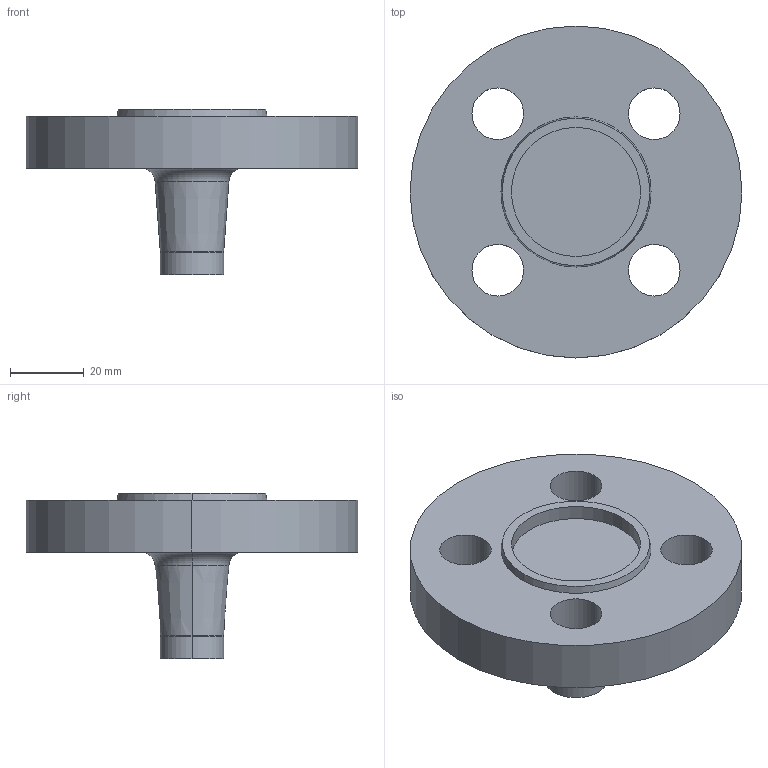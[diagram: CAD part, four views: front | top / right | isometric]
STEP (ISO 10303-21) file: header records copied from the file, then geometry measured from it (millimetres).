
FILE_DESCRIPTION (( 'STEP AP214' ), '1' );
FILE_NAME ('PN40 DN10 Type 21(ii) - Type F Face.STEP', '2018-12-29T05:04:43', ( '' ), ( '' ), 'SwSTEP 2.0', 'SolidWorks 2019', '' );
FILE_SCHEMA (( 'AUTOMOTIVE_DESIGN' ));
Length unit declared in the file: millimetre
Products named in the file (1): PN40 DN10 Type 21(ii) - Type F Face
Bounding box: 90 x 90 x 45 mm (x, y, z)
Volume: 87199.1 mm3; surface area: 20070.9 mm2
Topology: 1 solids, 1 shells, 27 faces, 60 edges, 38 vertices
Faces by surface type: cylinder 14, plane 5, torus 4, cone 4
Entity records: 818 total; most frequent: DIRECTION 158, CARTESIAN_POINT 126, ORIENTED_EDGE 120, AXIS2_PLACEMENT_3D 70, EDGE_CURVE 60, CIRCLE 42, EDGE_LOOP 38, VERTEX_POINT 38
